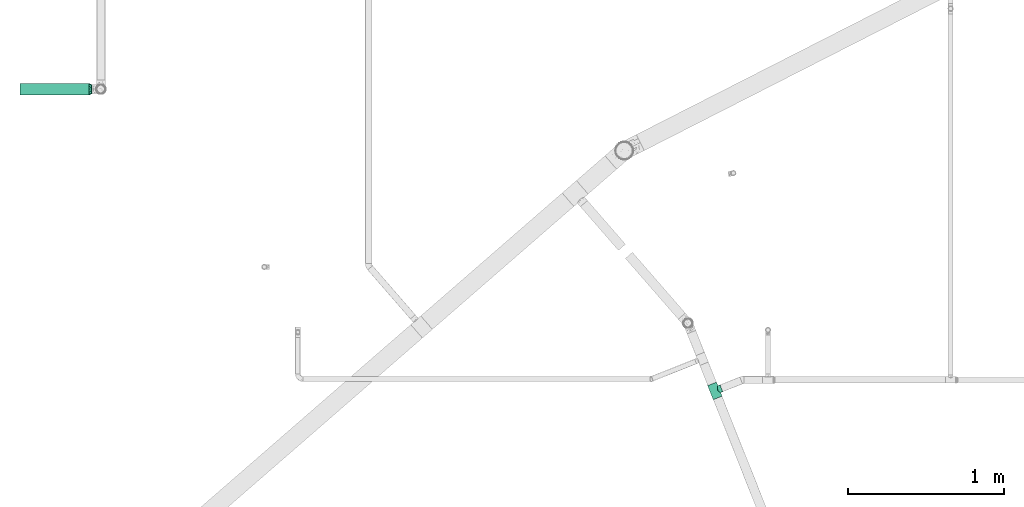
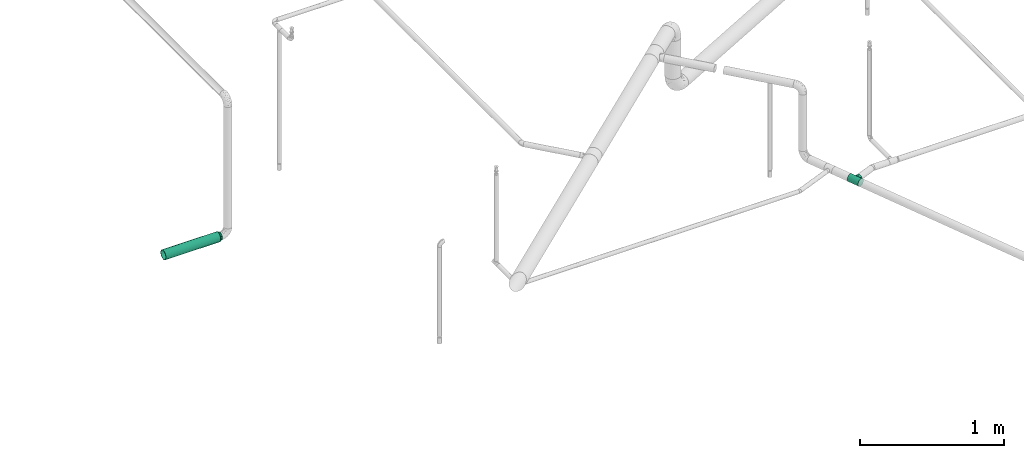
# One storey, part 90 of 94: 2 flow fittings, 1 flow segment.
"""IFC2X3 building model written with IfcOpenShell, lengths in millimetres."""

from ifc_helpers import new_model, entity, si_unit, converted_unit, derived_unit, direction, frame, origin_with_axes, place, context, subcontext, project, spatial, open_shell, faceted_brep, surface_model, source, transform, mapped, type_object, element, save


model = new_model("IFC2X3")

# Units and contexts
model_context = context("Model", 3, precision=0.01, world=frame((0.0, 4.29681676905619e-09, 0.0)), true_north=direction((4.01073788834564e-13, 1.0)))
plan_context = context("Plan", 3, precision=0.01, world=frame((0.0, 4.29681676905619e-09, 0.0)), true_north=direction((4.01073788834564e-13, 1.0)))
body_context = subcontext(model_context, "Body", "Model", "MODEL_VIEW")
ifc_project = project(units=[converted_unit("PLANEANGLEUNIT", "DEGREE", entity("IfcPositiveLengthMeasure", 0.0174532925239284), si_unit("PLANEANGLEUNIT", "RADIAN"), dimensions=[0, 0, 0, 0, 0, 0, 0]), si_unit("AREAUNIT", "SQUARE_METRE"), si_unit("LENGTHUNIT", "METRE", prefix="MILLI"), si_unit("MASSUNIT", "GRAM", prefix="KILO"), si_unit("POWERUNIT", "WATT"), si_unit("PRESSUREUNIT", "PASCAL", prefix="KILO"), si_unit("FORCEUNIT", "NEWTON", prefix="KILO"), si_unit("ELECTRICVOLTAGEUNIT", "VOLT"), si_unit("ELECTRICCURRENTUNIT", "AMPERE"), si_unit("THERMODYNAMICTEMPERATUREUNIT", "DEGREE_CELSIUS"), si_unit("TIMEUNIT", "SECOND"), si_unit("VOLUMEUNIT", "CUBIC_METRE"), derived_unit("LINEARVELOCITYUNIT", [(si_unit("LENGTHUNIT", "METRE"), 1), (si_unit("TIMEUNIT", "SECOND"), -1)]), derived_unit("VOLUMETRICFLOWRATEUNIT", [(si_unit("VOLUMEUNIT", "CUBIC_METRE"), 1), (si_unit("TIMEUNIT", "SECOND"), -1)]), derived_unit("THERMALTRANSMITTANCEUNIT", [(si_unit("POWERUNIT", "WATT"), 1), (si_unit("THERMODYNAMICTEMPERATUREUNIT", "KELVIN"), -1), (si_unit("AREAUNIT", "SQUARE_METRE"), -1)]), derived_unit("SOUNDPRESSUREUNIT", [(si_unit("PRESSUREUNIT", "PASCAL"), 1)])], contexts=[model_context, plan_context])

# Site, building, storey
site_placement = place(None, frame((0.0, -4.29681676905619e-09, 0.0), z_axis=(0.0, 0.0, 1.0), x_axis=(1.0, 0.0, 0.0)))
site = spatial("IfcSite", under=ifc_project, at=site_placement, CompositionType="ELEMENT")
building_placement = place(site_placement, frame((0.0, 4.29681676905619e-09, 0.0), z_axis=(0.0, 0.0, 1.0), x_axis=(1.0, 0.0, 0.0)))
building = spatial("IfcBuilding", under=site, at=building_placement, Name="mc-building", CompositionType="ELEMENT")
storey_placement = place(building_placement, frame((0.0, 0.0, 210900.0), z_axis=(0.0, 0.0, 1.0), x_axis=(1.0, 0.0, 0.0)))
storey = spatial("IfcBuildingStorey", under=building, at=storey_placement, Name="Nivå F", CompositionType="ELEMENT", Elevation=210900.0)

# Flow fittings
pipe_fitting_type_1 = type_object("IfcPipeFittingType", Name="magi_pipe_fe_reducer_centric_short_NOR", PredefinedType="TRANSITION")
shared_shape_1 = source(origin_with_axes(), body_context, "Body", "SurfaceModel", [
    surface_model("IfcShellBasedSurfaceModel", [(-2.0, 9.86101, 36.80177), (-2.0, -38.1, 0.0), (-2.0, 0.0, 38.1), (-2.0, 26.94077, 26.94077), (-2.0, 19.05, 32.99557), (-2.0, 32.99557, 19.05), (-2.0, 36.80177, 9.86101), (-2.0, -9.86101, 36.80177), (-2.0, -26.94077, 26.94077), (-2.0, -19.05, 32.99557), (-2.0, -32.99557, 19.05), (-2.0, -36.80177, 9.86101), (-2.0, 36.80177, -9.86101), (-2.0, -32.99557, -19.05), (-2.0, 9.86101, -36.80177), (-2.0, 32.99557, -19.05), (-2.0, 26.94077, -26.94077), (-2.0, 19.05, -32.99557), (-2.0, -26.94077, -26.94077), (-2.0, -36.80177, -9.86101), (-2.0, -19.05, -32.99557), (-2.0, 0.0, -38.1), (-2.0, -9.86101, -36.80177), (-2.0, 38.1, 0.0), (0.0, 9.86101, -36.80177), (0.0, 19.05, -32.99557), (0.0, 26.94077, -26.94077), (0.0, 36.80177, -9.86101), (0.0, -26.94077, -26.94077), (0.0, 32.99557, -19.05), (0.0, -38.1, 0.0), (0.0, 0.0, -38.1), (0.0, -19.05, -32.99557), (0.0, -9.86101, -36.80177), (0.0, -32.99557, -19.05), (0.0, -36.80177, -9.86101), (0.0, 38.1, 0.0), (0.0, 36.80177, 9.86101), (0.0, 32.99557, 19.05), (0.0, 26.94077, 26.94077), (0.0, 0.0, 38.1), (0.0, 9.86101, 36.80177), (0.0, 19.05, 32.99557), (0.0, -9.86101, 36.80177), (0.0, -32.99557, 19.05), (0.0, -36.80177, 9.86101), (0.0, -26.94077, 26.94077), (0.0, -19.05, 32.99557), (17.8, 7.81634, -29.17096), (17.8, 15.1, -26.15397), (17.8, 21.35462, -21.35462), (17.8, 30.2, 0.0), (17.8, 26.15397, -15.1), (17.8, 29.17096, -7.81634), (17.8, -15.1, -26.15397), (17.8, -29.17096, 7.81634), (17.8, 0.0, -30.2), (17.8, -7.81634, -29.17096), (17.8, -21.35462, -21.35462), (17.8, -29.17096, -7.81634), (17.8, -26.15397, -15.1), (17.8, 29.17096, 7.81634), (17.8, 26.15397, 15.1), (17.8, 21.35462, 21.35462), (17.8, -21.35462, 21.35462), (17.8, 15.1, 26.15397), (17.8, 7.81634, 29.17096), (17.8, 0.0, 30.2), (17.8, -26.15397, 15.1), (17.8, -30.2, 0.0), (17.8, -7.81634, 29.17096), (17.8, -15.1, 26.15397), (15.8, 0.0, 30.2), (15.8, 7.81634, 29.17096), (15.8, 15.1, 26.15397), (15.8, 21.35462, 21.35462), (15.8, 26.15397, 15.1), (15.8, 29.17096, 7.81634), (15.8, -29.17096, 7.81634), (15.8, 30.2, 0.0), (15.8, -7.81634, 29.17096), (15.8, -21.35462, 21.35462), (15.8, -15.1, 26.15397), (15.8, -26.15397, 15.1), (15.8, -30.2, 0.0), (15.8, 29.17096, -7.81634), (15.8, 26.15397, -15.1), (15.8, 21.35462, -21.35462), (15.8, 15.1, -26.15397), (15.8, 7.81634, -29.17096), (15.8, -15.1, -26.15397), (15.8, -29.17096, -7.81634), (15.8, -21.35462, -21.35462), (15.8, -26.15397, -15.1), (15.8, 0.0, -30.2), (15.8, -7.81634, -29.17096), (15.8, -9.33231, 28.72191), (15.8, -24.43231, 17.75111), (15.8, 9.33231, 28.72191), (15.8, 24.43231, 17.75111), (15.8, -9.33231, -28.72191), (15.8, -24.43231, -17.75111), (15.8, 9.33231, -28.72191), (15.8, 24.43231, -17.75111), (15.8, 27.31616, -8.87556), (15.8, 16.88231, -23.23651), (0.0, 35.64327, -9.16863), (0.0, 26.02278, -26.02278), (0.0, -35.64327, -9.16863), (15.8, -16.88231, -23.23651), (15.8, -27.31616, -8.87556), (0.0, -26.02278, -26.02278), (15.8, 0.0, -28.72191), (0.0, 9.525, -35.54778), (0.0, -9.525, -35.54778), (15.8, -27.31616, 8.87556), (15.8, -16.88231, 23.23651), (0.0, -35.64327, 9.16863), (0.0, -26.02278, 26.02278), (0.0, 35.64327, 9.16863), (15.8, 16.88231, 23.23651), (15.8, 27.31616, 8.87556), (0.0, 26.02278, 26.02278), (15.8, 0.0, 28.72191), (0.0, -9.525, 35.54778), (0.0, 9.525, 35.54778)], [open_shell([[[0, 1, 2]], [[3, 0, 4]], [[3, 5, 6]], [[3, 6, 0]], [[1, 0, 6]], [[7, 8, 9]], [[8, 7, 10]], [[10, 1, 11]], [[1, 10, 7]], [[7, 2, 1]], [[6, 12, 1]], [[13, 1, 12]], [[14, 12, 15]], [[16, 17, 14]], [[16, 14, 15]], [[13, 12, 14]], [[14, 18, 13]], [[19, 1, 13]], [[20, 21, 22]], [[20, 18, 14]], [[20, 14, 21]], [[6, 23, 12]], [[24, 25, 26]], [[24, 26, 27]], [[24, 27, 28]], [[27, 26, 29]], [[28, 27, 30]], [[31, 32, 33]], [[31, 24, 32]], [[28, 32, 24]], [[28, 30, 34]], [[34, 30, 35]], [[27, 36, 37]], [[37, 38, 39]], [[37, 39, 40]], [[41, 40, 39]], [[41, 39, 42]], [[37, 40, 43]], [[30, 44, 45]], [[44, 30, 43]], [[46, 43, 47]], [[43, 46, 44]], [[30, 37, 43]], [[37, 30, 27]], [[19, 35, 1]], [[13, 34, 19]], [[32, 18, 20]], [[13, 18, 28]], [[33, 20, 22]], [[19, 34, 35]], [[35, 30, 1]], [[33, 32, 20]], [[28, 18, 32]], [[28, 34, 13]], [[31, 33, 22]], [[22, 21, 31]], [[14, 24, 21]], [[17, 25, 14]], [[29, 16, 15]], [[17, 16, 26]], [[27, 15, 12]], [[17, 26, 25]], [[25, 24, 14]], [[36, 27, 12]], [[29, 15, 27]], [[29, 26, 16]], [[23, 36, 12]], [[21, 24, 31]], [[6, 37, 23]], [[5, 38, 6]], [[42, 3, 4]], [[5, 3, 39]], [[41, 4, 0]], [[6, 38, 37]], [[37, 36, 23]], [[41, 42, 4]], [[39, 3, 42]], [[39, 38, 5]], [[40, 41, 0]], [[0, 2, 40]], [[7, 43, 2]], [[9, 47, 7]], [[44, 8, 10]], [[9, 8, 46]], [[45, 10, 11]], [[9, 46, 47]], [[47, 43, 7]], [[30, 45, 11]], [[44, 10, 45]], [[44, 46, 8]], [[1, 30, 11]], [[2, 43, 40]], [[29, 25, 38]], [[30, 32, 34]], [[30, 31, 32]], [[36, 29, 38]], [[48, 49, 50]], [[48, 50, 51]], [[52, 53, 51]], [[52, 51, 50]], [[54, 48, 55]], [[56, 54, 57]], [[56, 48, 54]], [[58, 59, 60]], [[59, 58, 54]], [[54, 55, 59]], [[55, 48, 51]], [[61, 62, 63]], [[51, 63, 64]], [[65, 66, 67]], [[64, 63, 65]], [[64, 65, 67]], [[55, 64, 68]], [[69, 59, 55]], [[64, 70, 71]], [[55, 51, 64]], [[70, 64, 67]], [[61, 63, 51]], [[72, 73, 74]], [[72, 74, 75]], [[75, 76, 77]], [[72, 75, 78]], [[79, 78, 75]], [[80, 81, 82]], [[80, 72, 81]], [[81, 78, 83]], [[72, 78, 81]], [[78, 79, 84]], [[79, 75, 77]], [[79, 85, 86]], [[79, 86, 87]], [[87, 88, 89]], [[87, 89, 79]], [[89, 90, 84]], [[91, 92, 93]], [[92, 91, 90]], [[90, 94, 95]], [[91, 84, 90]], [[89, 94, 90]], [[84, 79, 89]], [[91, 59, 84]], [[93, 60, 91]], [[54, 92, 90]], [[93, 92, 58]], [[57, 90, 95]], [[91, 60, 59]], [[59, 69, 84]], [[57, 54, 90]], [[58, 92, 54]], [[58, 60, 93]], [[56, 57, 95]], [[95, 94, 56]], [[89, 48, 94]], [[88, 49, 89]], [[52, 87, 86]], [[88, 87, 50]], [[53, 86, 85]], [[88, 50, 49]], [[49, 48, 89]], [[51, 53, 85]], [[52, 86, 53]], [[52, 50, 87]], [[79, 51, 85]], [[94, 48, 56]], [[77, 61, 79]], [[76, 62, 77]], [[65, 75, 74]], [[76, 75, 63]], [[66, 74, 73]], [[77, 62, 61]], [[61, 51, 79]], [[66, 65, 74]], [[63, 75, 65]], [[63, 62, 76]], [[67, 66, 73]], [[73, 72, 67]], [[80, 70, 72]], [[82, 71, 80]], [[68, 81, 83]], [[82, 81, 64]], [[55, 83, 78]], [[82, 64, 71]], [[71, 70, 80]], [[69, 55, 78]], [[68, 83, 55]], [[68, 64, 81]], [[84, 69, 78]], [[72, 70, 67]], [[96, 97, 98]], [[98, 79, 99]], [[79, 98, 97]], [[97, 100, 79]], [[100, 97, 101]], [[102, 103, 79]], [[79, 100, 102]], [[97, 84, 101]], [[40, 42, 38]], [[40, 38, 44]], [[40, 44, 47]], [[44, 38, 30]], [[38, 25, 30]], [[25, 31, 30]], [[29, 104, 103]], [[105, 102, 25]], [[79, 106, 36]], [[107, 103, 105]], [[84, 30, 108]], [[106, 79, 104]], [[32, 100, 109]], [[105, 25, 107]], [[29, 103, 107]], [[29, 106, 104]], [[34, 110, 108]], [[108, 110, 84]], [[101, 34, 111]], [[112, 113, 102]], [[100, 32, 114]], [[113, 112, 31]], [[109, 101, 111]], [[101, 110, 34]], [[32, 109, 111]], [[100, 114, 112]], [[112, 114, 31]], [[113, 25, 102]], [[44, 115, 97]], [[116, 96, 47]], [[84, 117, 30]], [[118, 97, 116]], [[79, 36, 119]], [[117, 84, 115]], [[42, 98, 120]], [[116, 47, 118]], [[44, 97, 118]], [[44, 117, 115]], [[38, 121, 119]], [[119, 121, 79]], [[99, 38, 122]], [[123, 124, 96]], [[98, 42, 125]], [[124, 123, 40]], [[120, 99, 122]], [[99, 121, 38]], [[42, 120, 122]], [[98, 125, 123]], [[123, 125, 40]], [[124, 47, 96]]])]),
])
flow_fitting_1_placement = place(storey_placement, frame((714879.63176, 442736.90247, 3350.0), z_axis=(0.0, 0.0, 1.0), x_axis=(1.0, 0.0, 0.0)))
element("IfcFlowFitting", 1, at=flow_fitting_1_placement, inside=storey, type_object=pipe_fitting_type_1, Name="magi_pipe_fe_reducer_centric_short_NOR", context=body_context, shape_type="MappedRepresentation", body=[
    mapped(shared_shape_1, transform((0.0, 0.0, 0.0), scale=1.0)),
])
pipe_fitting_type_2 = type_object("IfcPipeFittingType", Name="magi_pipe_fe_tee_centric_90_NOR", PredefinedType="JUNCTION")
shared_shape_2 = source(origin_with_axes(), body_context, "Body", "SurfaceModel", [
    surface_model("IfcShellBasedSurfaceModel", [(-48.4, 15.1, -26.15397), (-48.4, 7.81634, -29.17096), (-48.4, 0.0, -30.2), (-48.4, 29.17096, -7.81634), (-48.4, 26.15397, -15.1), (-48.4, 21.35462, -21.35462), (-48.4, 30.2, 0.0), (-48.4, -30.2, 0.0), (-48.4, -15.1, -26.15397), (-48.4, -21.35462, -21.35462), (-48.4, -7.81634, -29.17096), (-48.4, -26.15397, -15.1), (-48.4, -29.17096, -7.81634), (-48.4, 26.15397, 15.1), (-48.4, 29.17096, 7.81634), (-48.4, 15.1, 26.15397), (-48.4, -21.35462, 21.35462), (-48.4, 21.35462, 21.35462), (-48.4, 7.81634, 29.17096), (-48.4, -29.17096, 7.81634), (-48.4, -26.15397, 15.1), (-48.4, -15.1, 26.15397), (-48.4, -7.81634, 29.17096), (-48.4, 0.0, 30.2), (48.4, 0.0, -30.2), (48.4, 7.81634, -29.17096), (48.4, 15.1, -26.15397), (48.4, 21.35462, -21.35462), (48.4, -7.81634, -29.17096), (48.4, 26.15397, -15.1), (48.4, 29.17096, -7.81634), (48.4, -21.35462, -21.35462), (48.4, -15.1, -26.15397), (48.4, -29.17096, -7.81634), (48.4, -26.15397, -15.1), (48.4, -30.2, 0.0), (48.4, 30.2, 0.0), (48.4, 29.17096, 7.81634), (48.4, 26.15397, 15.1), (48.4, -29.17096, 7.81634), (48.4, 15.1, 26.15397), (48.4, 7.81634, 29.17096), (48.4, 21.35462, 21.35462), (48.4, -21.35462, 21.35462), (48.4, -26.15397, 15.1), (48.4, -15.1, 26.15397), (48.4, 0.0, 30.2), (48.4, -7.81634, 29.17096), (24.2, -30.2, 0.0), (22.60269, -28.93582, 8.64629), (18.34349, -25.74653, 15.78469), (12.2058, -21.80325, 20.89638), (4.41265, -18.59762, 23.7943), (-24.2, -30.2, 0.0), (-22.60359, -28.93652, 8.64395), (-12.20756, -21.80423, 20.89535), (-4.42042, -18.59947, 23.79285), (-18.34713, -25.74912, 15.78045), (4.41265, -18.59762, -23.7943), (18.34349, -25.74653, -15.78469), (12.2058, -21.80325, -20.89638), (22.60269, -28.93582, -8.64629), (-4.42042, -18.59947, -23.79285), (-12.20756, -21.80423, -20.89535), (-18.34713, -25.74912, -15.78045), (-22.60359, -28.93652, -8.64395), (0.0, -45.3, -24.2), (6.26342, -45.3, -23.37541), (12.1, -45.3, -20.95781), (12.1, -45.3, 20.95781), (17.11198, -45.3, -17.11198), (20.95781, -45.3, -12.1), (23.37541, -45.3, -6.26342), (-12.1, -45.3, -20.95781), (-20.95781, -45.3, -12.1), (-17.11198, -45.3, -17.11198), (-6.26342, -45.3, -23.37541), (-23.37541, -45.3, -6.26342), (-24.2, -45.3, 0.0), (24.2, -45.3, 0.0), (23.37541, -45.3, 6.26342), (20.95781, -45.3, 12.1), (-23.37541, -45.3, 6.26342), (17.11198, -45.3, 17.11198), (6.26342, -45.3, 23.37541), (-17.11198, -45.3, 17.11198), (-20.95781, -45.3, 12.1), (-12.1, -45.3, 20.95781), (0.0, -45.3, 24.2), (-6.26342, -45.3, 23.37541), (-23.40179, -29.56826, 4.32197), (-0.00389, -18.59854, 23.79357), (23.40135, -29.56791, 4.32314), (23.40135, -29.56791, -4.32314), (-0.00389, -18.59854, -23.79357), (-23.40179, -29.56826, -4.32197)], [open_shell([[[0, 1, 2]], [[3, 0, 2]], [[0, 3, 4]], [[5, 0, 4]], [[6, 2, 7]], [[8, 9, 10]], [[9, 2, 10]], [[11, 12, 9]], [[7, 9, 12]], [[9, 7, 2]], [[6, 3, 2]], [[13, 14, 6]], [[7, 15, 13]], [[7, 16, 15]], [[17, 13, 15]], [[18, 15, 16]], [[19, 20, 7]], [[7, 20, 16]], [[21, 22, 16]], [[23, 16, 22]], [[16, 23, 18]], [[7, 13, 6]], [[24, 25, 26]], [[24, 26, 27]], [[28, 27, 29]], [[27, 28, 24]], [[28, 29, 30]], [[28, 31, 32]], [[31, 28, 33]], [[31, 33, 34]], [[33, 28, 35]], [[28, 30, 35]], [[30, 36, 35]], [[36, 37, 38]], [[39, 36, 38]], [[40, 41, 38]], [[40, 38, 42]], [[43, 38, 41]], [[39, 43, 44]], [[39, 38, 43]], [[45, 46, 47]], [[46, 45, 43]], [[41, 46, 43]], [[36, 39, 35]], [[18, 46, 41]], [[35, 39, 48]], [[49, 48, 39]], [[39, 44, 49]], [[44, 43, 50]], [[51, 50, 43]], [[52, 51, 43]], [[43, 45, 52]], [[44, 50, 49]], [[53, 54, 19]], [[19, 7, 53]], [[54, 20, 19]], [[55, 56, 16]], [[20, 57, 16]], [[57, 20, 54]], [[16, 57, 55]], [[56, 21, 16]], [[52, 21, 56]], [[23, 47, 46]], [[22, 45, 47]], [[38, 37, 14]], [[17, 40, 42]], [[13, 42, 38]], [[41, 40, 15]], [[6, 37, 36]], [[21, 45, 22]], [[22, 47, 23]], [[18, 23, 46]], [[41, 15, 18]], [[15, 40, 17]], [[13, 17, 42]], [[14, 13, 38]], [[37, 6, 14]], [[45, 21, 52]], [[4, 30, 29]], [[3, 36, 30]], [[5, 29, 27]], [[24, 28, 10]], [[1, 26, 25]], [[2, 25, 24]], [[27, 26, 0]], [[8, 28, 32]], [[6, 36, 3]], [[3, 30, 4]], [[5, 4, 29]], [[27, 0, 5]], [[0, 26, 1]], [[2, 1, 25]], [[10, 2, 24]], [[28, 8, 10]], [[32, 58, 8]], [[31, 59, 60]], [[59, 31, 34]], [[60, 58, 31]], [[31, 58, 32]], [[33, 35, 48]], [[33, 61, 34]], [[61, 33, 48]], [[34, 61, 59]], [[62, 63, 9]], [[9, 64, 11]], [[64, 9, 63]], [[62, 9, 8]], [[65, 53, 12]], [[65, 12, 11]], [[12, 53, 7]], [[65, 11, 64]], [[58, 62, 8]], [[66, 67, 68]], [[69, 66, 68]], [[70, 71, 72]], [[70, 72, 68]], [[69, 73, 66]], [[73, 74, 75]], [[73, 76, 66]], [[73, 77, 74]], [[77, 73, 78]], [[73, 69, 78]], [[79, 68, 72]], [[79, 80, 81]], [[79, 81, 69]], [[69, 82, 78]], [[69, 81, 83]], [[82, 69, 84]], [[82, 85, 86]], [[82, 84, 85]], [[87, 88, 89]], [[88, 87, 85]], [[84, 88, 85]], [[69, 68, 79]], [[82, 90, 78]], [[57, 86, 85]], [[82, 86, 54]], [[85, 87, 55]], [[90, 53, 78]], [[54, 86, 57]], [[55, 89, 56]], [[55, 57, 85]], [[88, 52, 91]], [[55, 87, 89]], [[92, 79, 48]], [[92, 49, 80]], [[82, 54, 90]], [[84, 52, 88]], [[49, 81, 80]], [[81, 50, 83]], [[88, 56, 89]], [[84, 51, 52]], [[51, 84, 69]], [[69, 83, 51]], [[51, 83, 50]], [[50, 81, 49]], [[79, 92, 80]], [[91, 56, 88]], [[72, 93, 79]], [[59, 71, 70]], [[72, 71, 61]], [[70, 68, 60]], [[93, 48, 79]], [[61, 71, 59]], [[60, 67, 58]], [[60, 59, 70]], [[66, 62, 94]], [[60, 68, 67]], [[95, 78, 53]], [[95, 65, 77]], [[63, 73, 75]], [[72, 61, 93]], [[65, 74, 77]], [[75, 74, 64]], [[66, 58, 67]], [[62, 76, 63]], [[62, 66, 76]], [[76, 73, 63]], [[63, 75, 64]], [[64, 74, 65]], [[78, 95, 77]], [[94, 58, 66]]])]),
])
flow_fitting_2_placement = place(storey_placement, frame((718881.58372, 440807.83618, 3600.0), z_axis=(0.0, 0.0, 1.0), x_axis=(-0.369451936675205, 0.929249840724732, 0.0)))
element("IfcFlowFitting", 2, at=flow_fitting_2_placement, inside=storey, type_object=pipe_fitting_type_2, Name="magi_pipe_fe_tee_centric_90_NOR", context=body_context, shape_type="MappedRepresentation", body=[
    mapped(shared_shape_2, transform((0.0, 0.0, 0.0), scale=1.0)),
])

# Flow segment
pipe_segment_type = type_object("IfcPipeSegmentType", Name="Stålrør normaltykke", PredefinedType="RIGIDSEGMENT")
flow_segment_placement = place(storey_placement, frame((713797.02051, 442736.90247, 3350.0), z_axis=(0.0, 0.0, 1.0), x_axis=(1.0, 0.0, 0.0)))
element("IfcFlowSegment", 3, at=flow_segment_placement, inside=storey, type_object=pipe_segment_type, Name="Stålrør normaltykke", context=body_context, shape_type="Brep", body=[
    faceted_brep([(640.966989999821, 35.4530791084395, -6.25133439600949), (640.966989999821, 36.0, 0.0), (1082.6, 36.0, 0.0), (1082.6, 35.4530791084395, -6.25133439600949), (640.966989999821, 33.8289343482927, -12.3127251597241), (1082.6, 33.8289343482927, -12.3127251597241), (640.966989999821, 31.1769145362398, -18.0), (1082.6, 31.1769145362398, -18.0), (640.966989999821, 27.5775999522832, -23.1403539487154), (1082.6, 27.5775999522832, -23.1403539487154), (640.966989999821, 23.1403539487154, -27.5775999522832), (1082.6, 23.1403539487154, -27.5775999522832), (640.966989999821, 18.0, -31.1769145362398), (1082.6, 18.0, -31.1769145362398), (640.966989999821, 12.3127251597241, -33.8289343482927), (1082.6, 12.3127251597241, -33.8289343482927), (640.966989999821, 6.25133439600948, -35.4530791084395), (1082.6, 6.25133439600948, -35.4530791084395), (640.966989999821, -6.61309271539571e-15, -36.0), (1082.6, -6.61309271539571e-15, -36.0), (640.966989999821, -6.25133439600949, -35.4530791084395), (1082.6, -6.25133439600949, -35.4530791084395), (640.966989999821, -12.3127251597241, -33.8289343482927), (1082.6, -12.3127251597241, -33.8289343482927), (640.966989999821, -18.0, -31.1769145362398), (1082.6, -18.0, -31.1769145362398), (640.966989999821, -23.1403539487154, -27.5775999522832), (1082.6, -23.1403539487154, -27.5775999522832), (640.966989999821, -27.5775999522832, -23.1403539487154), (1082.6, -27.5775999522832, -23.1403539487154), (640.966989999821, -31.1769145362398, -18.0), (1082.6, -31.1769145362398, -18.0), (640.966989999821, -33.8289343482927, -12.3127251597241), (1082.6, -33.8289343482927, -12.3127251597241), (640.966989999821, -35.4530791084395, -6.25133439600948), (1082.6, -35.4530791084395, -6.25133439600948), (640.966989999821, -36.0, 4.40872847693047e-15), (1082.6, -36.0, 4.40872847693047e-15), (640.966989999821, -35.4530791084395, 6.25133439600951), (1082.6, -35.4530791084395, 6.25133439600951), (640.966989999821, -33.8289343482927, 12.3127251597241), (1082.6, -33.8289343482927, 12.3127251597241), (640.966989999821, -31.1769145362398, 18.0), (1082.6, -31.1769145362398, 18.0), (640.966989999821, -27.5775999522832, 23.1403539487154), (1082.6, -27.5775999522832, 23.1403539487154), (640.966989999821, -23.1403539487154, 27.5775999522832), (1082.6, -23.1403539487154, 27.5775999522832), (640.966989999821, -18.0, 31.1769145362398), (1082.6, -18.0, 31.1769145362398), (640.966989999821, -12.3127251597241, 33.8289343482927), (1082.6, -12.3127251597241, 33.8289343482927), (640.966989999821, -6.25133439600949, 35.4530791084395), (1082.6, -6.25133439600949, 35.4530791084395), (640.966989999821, 2.20436423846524e-15, 36.0), (1082.6, 2.20436423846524e-15, 36.0), (640.966989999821, 6.2513343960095, 35.4530791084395), (1082.6, 6.2513343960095, 35.4530791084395), (640.966989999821, 12.3127251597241, 33.8289343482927), (1082.6, 12.3127251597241, 33.8289343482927), (640.966989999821, 18.0, 31.1769145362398), (1082.6, 18.0, 31.1769145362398), (640.966989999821, 23.1403539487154, 27.5775999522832), (1082.6, 23.1403539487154, 27.5775999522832), (640.966989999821, 27.5775999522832, 23.1403539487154), (1082.6, 27.5775999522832, 23.1403539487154), (640.966989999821, 31.1769145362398, 18.0), (1082.6, 31.1769145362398, 18.0), (640.966989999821, 33.8289343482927, 12.3127251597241), (1082.6, 33.8289343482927, 12.3127251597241), (640.966989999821, 35.4530791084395, 6.25133439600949), (1082.6, 35.4530791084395, 6.25133439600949), (640.966989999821, 38.0, 0.0), (640.966989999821, 37.4226946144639, -6.59863075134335), (1082.6, 37.4226946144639, -6.59863075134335), (1082.6, 38.0, 0.0), (640.966989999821, 37.4226946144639, 6.59863075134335), (1082.6, 37.4226946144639, 6.59863075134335), (640.966989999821, 35.7083195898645, 12.9967654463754), (1082.6, 35.7083195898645, 12.9967654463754), (640.966989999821, 32.9089653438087, 19.0), (1082.6, 32.9089653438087, 19.0), (640.966989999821, 29.1096888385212, 24.4259291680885), (1082.6, 29.1096888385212, 24.4259291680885), (640.966989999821, 24.4259291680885, 29.1096888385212), (1082.6, 24.4259291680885, 29.1096888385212), (640.966989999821, 19.0, 32.9089653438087), (1082.6, 19.0, 32.9089653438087), (640.966989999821, 12.9967654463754, 35.7083195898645), (1082.6, 12.9967654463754, 35.7083195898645), (640.966989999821, 6.59863075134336, 37.4226946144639), (1082.6, 6.59863075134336, 37.4226946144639), (640.966989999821, 2.32682891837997e-15, 38.0), (1082.6, 2.32682891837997e-15, 38.0), (640.966989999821, -6.59863075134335, 37.4226946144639), (1082.6, -6.59863075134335, 37.4226946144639), (640.966989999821, -12.9967654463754, 35.7083195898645), (1082.6, -12.9967654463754, 35.7083195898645), (640.966989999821, -19.0, 32.9089653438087), (1082.6, -19.0, 32.9089653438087), (640.966989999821, -24.4259291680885, 29.1096888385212), (1082.6, -24.4259291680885, 29.1096888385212), (640.966989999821, -29.1096888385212, 24.4259291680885), (1082.6, -29.1096888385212, 24.4259291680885), (640.966989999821, -32.9089653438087, 19.0), (1082.6, -32.9089653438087, 19.0), (640.966989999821, -35.7083195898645, 12.9967654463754), (1082.6, -35.7083195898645, 12.9967654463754), (640.966989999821, -37.4226946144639, 6.59863075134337), (1082.6, -37.4226946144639, 6.59863075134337), (640.966989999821, -38.0, 4.65365783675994e-15), (1082.6, -38.0, 4.65365783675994e-15), (640.966989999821, -37.4226946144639, -6.59863075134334), (1082.6, -37.4226946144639, -6.59863075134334), (640.966989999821, -35.7083195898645, -12.9967654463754), (1082.6, -35.7083195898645, -12.9967654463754), (640.966989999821, -32.9089653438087, -19.0), (1082.6, -32.9089653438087, -19.0), (640.966989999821, -29.1096888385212, -24.4259291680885), (1082.6, -29.1096888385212, -24.4259291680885), (640.966989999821, -24.4259291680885, -29.1096888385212), (1082.6, -24.4259291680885, -29.1096888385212), (640.966989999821, -19.0, -32.9089653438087), (1082.6, -19.0, -32.9089653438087), (640.966989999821, -12.9967654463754, -35.7083195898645), (1082.6, -12.9967654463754, -35.7083195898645), (640.966989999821, -6.59863075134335, -37.4226946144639), (1082.6, -6.59863075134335, -37.4226946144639), (640.966989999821, -6.98048675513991e-15, -38.0), (1082.6, -6.98048675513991e-15, -38.0), (640.966989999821, 6.59863075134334, -37.4226946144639), (1082.6, 6.59863075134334, -37.4226946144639), (640.966989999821, 12.9967654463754, -35.7083195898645), (1082.6, 12.9967654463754, -35.7083195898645), (640.966989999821, 19.0, -32.9089653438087), (1082.6, 19.0, -32.9089653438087), (640.966989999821, 24.4259291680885, -29.1096888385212), (1082.6, 24.4259291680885, -29.1096888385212), (640.966989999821, 29.1096888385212, -24.4259291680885), (1082.6, 29.1096888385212, -24.4259291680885), (640.966989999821, 32.9089653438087, -19.0), (1082.6, 32.9089653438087, -19.0), (640.966989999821, 35.7083195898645, -12.9967654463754), (1082.6, 35.7083195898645, -12.9967654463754)], [[[0, 1, 2, 3]], [[4, 0, 3, 5]], [[6, 4, 5, 7]], [[8, 6, 7, 9]], [[10, 8, 9, 11]], [[12, 10, 11, 13]], [[14, 12, 13, 15]], [[16, 14, 15, 17]], [[18, 16, 17, 19]], [[20, 18, 19, 21]], [[22, 20, 21, 23]], [[24, 22, 23, 25]], [[26, 24, 25, 27]], [[28, 26, 27, 29]], [[30, 28, 29, 31]], [[32, 30, 31, 33]], [[34, 32, 33, 35]], [[36, 34, 35, 37]], [[38, 36, 37, 39]], [[40, 38, 39, 41]], [[42, 40, 41, 43]], [[44, 42, 43, 45]], [[46, 44, 45, 47]], [[48, 46, 47, 49]], [[50, 48, 49, 51]], [[52, 50, 51, 53]], [[54, 52, 53, 55]], [[56, 54, 55, 57]], [[58, 56, 57, 59]], [[60, 58, 59, 61]], [[62, 60, 61, 63]], [[64, 62, 63, 65]], [[66, 64, 65, 67]], [[68, 66, 67, 69]], [[70, 68, 69, 71]], [[1, 70, 71, 2]], [[72, 73, 74, 75]], [[76, 72, 75, 77]], [[78, 76, 77, 79]], [[80, 78, 79, 81]], [[82, 80, 81, 83]], [[84, 82, 83, 85]], [[86, 84, 85, 87]], [[88, 86, 87, 89]], [[90, 88, 89, 91]], [[92, 90, 91, 93]], [[94, 92, 93, 95]], [[96, 94, 95, 97]], [[98, 96, 97, 99]], [[100, 98, 99, 101]], [[102, 100, 101, 103]], [[104, 102, 103, 105]], [[106, 104, 105, 107]], [[108, 106, 107, 109]], [[110, 108, 109, 111]], [[112, 110, 111, 113]], [[114, 112, 113, 115]], [[116, 114, 115, 117]], [[118, 116, 117, 119]], [[120, 118, 119, 121]], [[122, 120, 121, 123]], [[124, 122, 123, 125]], [[126, 124, 125, 127]], [[128, 126, 127, 129]], [[130, 128, 129, 131]], [[132, 130, 131, 133]], [[134, 132, 133, 135]], [[136, 134, 135, 137]], [[138, 136, 137, 139]], [[140, 138, 139, 141]], [[142, 140, 141, 143]], [[73, 142, 143, 74]], [[75, 74, 143, 141, 139, 137, 135, 133, 131, 129, 127, 125, 123, 121, 119, 117, 115, 113, 111, 109, 107, 105, 103, 101, 99, 97, 95, 93, 91, 89, 87, 85, 83, 81, 79, 77], [2, 71, 69, 67, 65, 63, 61, 59, 57, 55, 53, 51, 49, 47, 45, 43, 41, 39, 37, 35, 33, 31, 29, 27, 25, 23, 21, 19, 17, 15, 13, 11, 9, 7, 5, 3]], [[76, 78, 80, 82, 84, 86, 88, 90, 92, 94, 96, 98, 100, 102, 104, 106, 108, 110, 112, 114, 116, 118, 120, 122, 124, 126, 128, 130, 132, 134, 136, 138, 140, 142, 73, 72], [4, 6, 8, 10, 12, 14, 16, 18, 20, 22, 24, 26, 28, 30, 32, 34, 36, 38, 40, 42, 44, 46, 48, 50, 52, 54, 56, 58, 60, 62, 64, 66, 68, 70, 1, 0]]], orient=[[False], [False], [False], [False], [False], [False], [False], [False], [False], [False], [False], [False], [False], [False], [False], [False], [False], [False], [False], [False], [False], [False], [False], [False], [False], [False], [False], [False], [False], [False], [False], [False], [False], [False], [False], [False], [False], [False], [False], [False], [False], [False], [False], [False], [False], [False], [False], [False], [False], [False], [False], [False], [False], [False], [False], [False], [False], [False], [False], [False], [False], [False], [False], [False], [False], [False], [False], [False], [False], [False], [False], [False], [False, False], [False, False]]),
])

save(model, "model.ifc")
